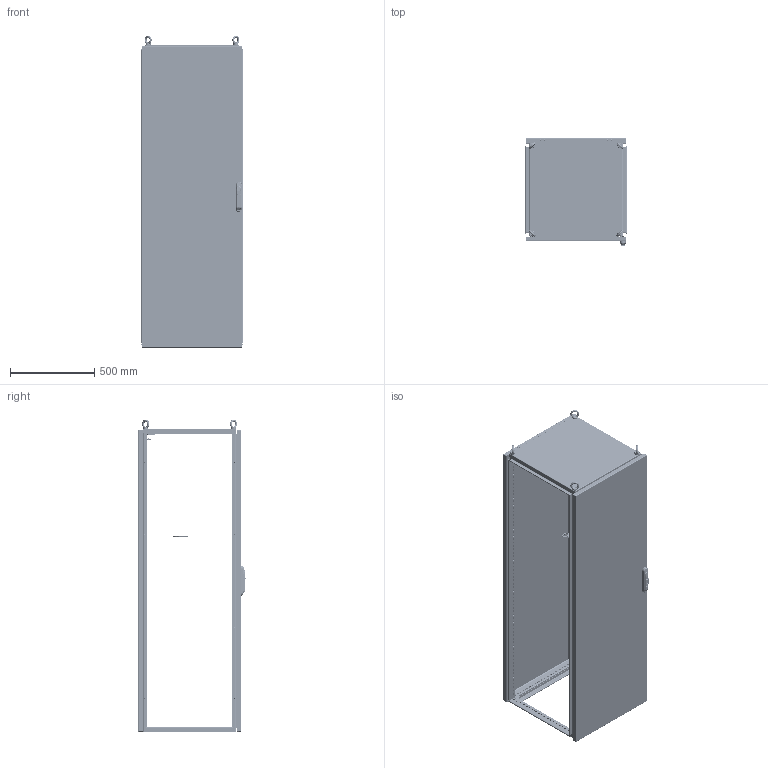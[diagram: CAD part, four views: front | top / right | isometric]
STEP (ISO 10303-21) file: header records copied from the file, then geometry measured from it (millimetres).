
FILE_DESCRIPTION(/* description */ (''),/* implementation_level */ '2;1');
FILE_NAME(/* name */ 'MCA06018060',/* time_stamp */ '2025-09-15T13:53:35+02:00',/* author */ ('INOXVENETA Spa'),/* organization */ ('www.inoxveneta.it '),/* preprocessor_version */ 'ST-DEVELOPER v19.4',/* originating_system */ 'Solid Edge',/* authorisation */ 'Unknown');
FILE_SCHEMA (('AUTOMOTIVE_DESIGN {1 0 10303 214 3 1 1}'));
Products named in the file (62): MCA06018060; F0000001.24; AE00198.03; M000X002.14; M0000000.29; AE00500.10; M000X000.66; M0000000.54; M0000000.39; M0000000.06; AE00219.03; AE00715.01; M000X000.67; M0000000.70; F0000000.18; F000X002.06; F000X002.07; F0000001.47; F0000000.07; AE00100.03_oa_0; AE00100.03_oa_1; AE00100.03_oa_2; AE00100.03_oa_3; F000X000.14; AE00989.12; M0000000.37; AE00701.03; F0000000.13; F000X002.33; F000X002.35; F0000001.64; F0000000.12; AE00222.15; AE00316.01; AE00992.10_oa_4; AE00992.31; AE00315.01; R1000002.13; AE00992.18; AE00992.16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
Assembly tree (230 placements, depth 4):
  MCA06018060
    F0000001.24  x4
    AE00198.03  x16
    M000X002.14
      M0000000.29  x4
      AE00500.10  x48
      M000X000.66  x2
        M0000000.54
        M0000000.39
        M0000000.06
    AE00219.03  x8
    AE00715.01  x4
    M000X000.67
      M0000000.70
    F0000000.18
    F000X002.06
      F000X002.07
        F0000001.47
      F0000000.07  x2
      AE00100.03_oa_0
      AE00100.03_oa_1
      AE00100.03_oa_2
      AE00100.03_oa_3
    F000X000.14
      AE00989.12
    M0000000.37  x8
    AE00701.03  x4
    F0000000.13  x4
    F000X002.33
      F000X002.35
        F0000001.64
      F0000000.12  x8
      AE00222.15  x8
      AE00316.01  x8
      AE00992.10_oa_4
      AE00992.31
      AE00315.01  x4
      R1000002.13  x2
      AE00992.18  x4
      AE00992.16
      AE00636.02  x8
      AE00409.01  x8
      AE00417.01  x2
      R000X001.15
        F0000002.21  x2
        F0000003.02  x2
        F0000001.46  x4
      AE00322.01  x4
    F0000000.08  x4
    M000X000.49_oa_5
      M0000000.56
      M0000000.57
      M000X000.50_oa_6
        M0000000.58
        AE00217.25
        AE00309.01
      AE00368.00  x8
      AE00224.00  x2
      AE00219.00  x8
      M000X000.51_oa_7
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Bounding box: 600 x 638.2 x 1856.9 mm (x, y, z)
Volume: 9307061.4 mm3; surface area: 12155950.1 mm2
Topology: 242 solids, 242 shells, 14860 faces, 40362 edges, 26061 vertices
Faces by surface type: plane 9055, cylinder 3653, torus 722, cone 646, bspline 534, sphere 250
Full cylindrical faces by diameter (mm): 0.615 x4, 0.96 x1, 1.231 x4, 2 x4, 2.24 x2, 2.88 x1, 3 x1, 3.242 x2, 3.5 x1, 4 x13, 4.134 x9, 4.25 x172, 4.5 x864, 4.917 x73, 4.918 x8, 5 x11, 6 x78, 6.1 x20, 6.2 x8, 6.5 x32, 6.647 x6, 7.5 x2, 7.827 x4, 8 x4, 8.3 x8, 8.5 x2, 8.8 x1, 9 x48, 10 x2, 10.106 x8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
Entity records: 139035 total; most frequent: CARTESIAN_POINT 33415, ORIENTED_EDGE 20312, DIRECTION 20189, EDGE_CURVE 10156, LINE 6955, VECTOR 6955, VERTEX_POINT 6828, AXIS2_PLACEMENT_3D 6617
